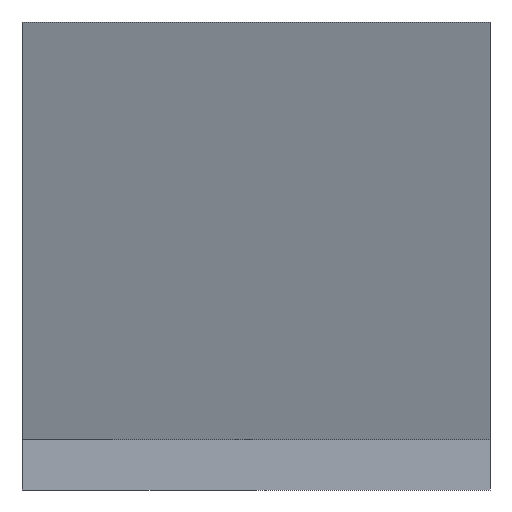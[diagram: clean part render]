
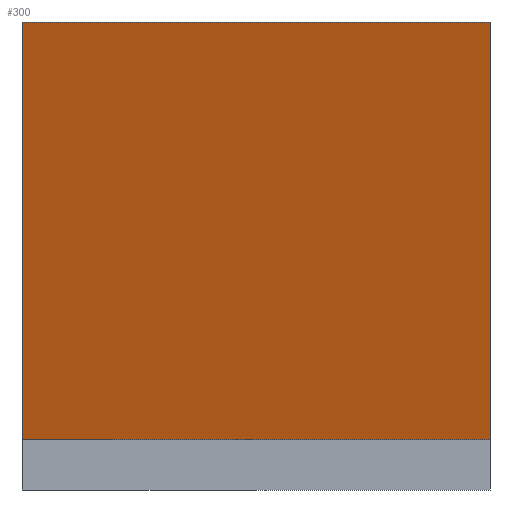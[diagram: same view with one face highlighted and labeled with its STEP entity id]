
A CAD part, left-side view. The second image highlights one B-rep face of the part: STEP entity #300.
In plain terms, the highlighted planar face has unit normal (-0.919, 0.394, 0).
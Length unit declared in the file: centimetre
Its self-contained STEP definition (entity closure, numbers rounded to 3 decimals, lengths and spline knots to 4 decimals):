
#20 = ORIENTED_EDGE ( 'NONE', *, *, #56, .F. ) ;
#35 = CARTESIAN_POINT ( 'NONE',  ( 885.8767, 1000., 107.5857 ) ) ;
#39 = VERTEX_POINT ( 'NONE', #35 ) ;
#45 = VERTEX_POINT ( 'NONE', #138 ) ;
#56 = EDGE_CURVE ( 'NONE', #39, #131, #403, .T. ) ;
#66 = CARTESIAN_POINT ( 'NONE',  ( 885.8767, 1000., 107.5857 ) ) ;
#76 = EDGE_CURVE ( 'NONE', #232, #45, #133, .T. ) ;
#80 = VECTOR ( 'NONE', #384, 100. ) ;
#91 = DIRECTION ( 'NONE',  ( 0.394, 0.919, 0. ) ) ;
#100 = DIRECTION ( 'NONE',  ( 0., 0., 1. ) ) ;
#131 = VERTEX_POINT ( 'NONE', #298 ) ;
#133 = LINE ( 'NONE', #168, #164 ) ;
#138 = CARTESIAN_POINT ( 'NONE',  ( 457.0034, 0., 1000. ) ) ;
#164 = VECTOR ( 'NONE', #100, 100. ) ;
#168 = CARTESIAN_POINT ( 'NONE',  ( 457.0034, 0., 107.5857 ) ) ;
#171 = DIRECTION ( 'NONE',  ( 0., 0., 1. ) ) ;
#183 = VECTOR ( 'NONE', #171, 100. ) ;
#190 = CARTESIAN_POINT ( 'NONE',  ( 885.8767, 1000., 107.5857 ) ) ;
#232 = VERTEX_POINT ( 'NONE', #243 ) ;
#239 = EDGE_CURVE ( 'NONE', #232, #39, #320, .T. ) ;
#240 = DIRECTION ( 'NONE',  ( 0.394, 0.919, 0. ) ) ;
#243 = CARTESIAN_POINT ( 'NONE',  ( 457.0034, 0., 107.5857 ) ) ;
#253 = FACE_OUTER_BOUND ( 'NONE', #412, .T. ) ;
#286 = LINE ( 'NONE', #391, #290 ) ;
#290 = VECTOR ( 'NONE', #91, 100. ) ;
#298 = CARTESIAN_POINT ( 'NONE',  ( 885.8767, 1000., 1000. ) ) ;
#299 = ORIENTED_EDGE ( 'NONE', *, *, #76, .T. ) ;
#300 = ADVANCED_FACE ( 'NONE', ( #253 ), #393, .F. ) ;
#316 = CARTESIAN_POINT ( 'NONE',  ( 885.8767, 1000., 107.5857 ) ) ;
#320 = LINE ( 'NONE', #316, #80 ) ;
#339 = AXIS2_PLACEMENT_3D ( 'NONE', #190, #422, #240 ) ;
#340 = EDGE_CURVE ( 'NONE', #45, #131, #286, .T. ) ;
#342 = ORIENTED_EDGE ( 'NONE', *, *, #340, .T. ) ;
#377 = ORIENTED_EDGE ( 'NONE', *, *, #239, .F. ) ;
#384 = DIRECTION ( 'NONE',  ( 0.394, 0.919, 0. ) ) ;
#391 = CARTESIAN_POINT ( 'NONE',  ( 885.8767, 1000., 1000. ) ) ;
#393 = PLANE ( 'NONE',  #339 ) ;
#403 = LINE ( 'NONE', #66, #183 ) ;
#412 = EDGE_LOOP ( 'NONE', ( #342, #20, #377, #299 ) ) ;
#422 = DIRECTION ( 'NONE',  ( 0.919, -0.394, 0. ) ) ;
